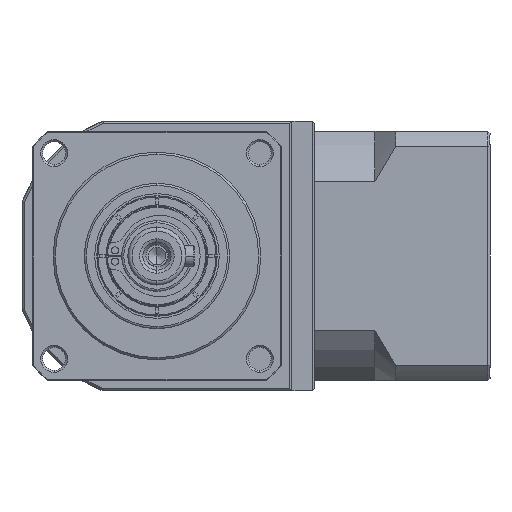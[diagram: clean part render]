
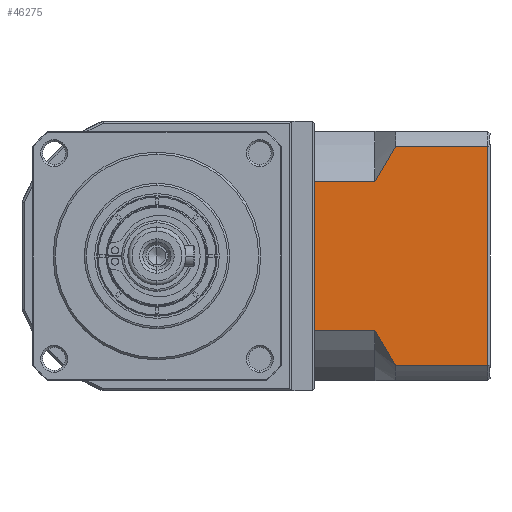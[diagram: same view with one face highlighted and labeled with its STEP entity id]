
A CAD part, left-side view. The second image highlights one B-rep face of the part: STEP entity #46275.
In plain terms, the highlighted planar face has unit normal (-1, 0, 0).
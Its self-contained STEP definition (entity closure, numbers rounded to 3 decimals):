
#3885 = FACE_OUTER_BOUND ( 'NONE', #103805, .T. ) ;
#3974 = ORIENTED_EDGE ( 'NONE', *, *, #6599, .F. ) ;
#4138 = VERTEX_POINT ( 'NONE', #25729 ) ;
#4949 = VECTOR ( 'NONE', #13155, 1000. ) ;
#5081 = CARTESIAN_POINT ( 'NONE',  ( -17.619, -78.863, -141.64 ) ) ;
#6599 = EDGE_CURVE ( 'NONE', #8780, #140287, #117535, .T. ) ;
#6863 = DIRECTION ( 'NONE',  ( 0., -1., 0. ) ) ;
#6998 = EDGE_CURVE ( 'NONE', #117397, #4138, #98257, .T. ) ;
#7428 = CARTESIAN_POINT ( 'NONE',  ( -17.619, -83.863, -150.07 ) ) ;
#8780 = VERTEX_POINT ( 'NONE', #155748 ) ;
#13155 = DIRECTION ( 'NONE',  ( 0., -1., 0. ) ) ;
#25729 = CARTESIAN_POINT ( 'NONE',  ( -17.619, -78.863, -105.585 ) ) ;
#26933 = CARTESIAN_POINT ( 'NONE',  ( -17.619, -80.415, -102.701 ) ) ;
#30752 = DIRECTION ( 'NONE',  ( 1., 0., 0. ) ) ;
#31042 = CARTESIAN_POINT ( 'NONE',  ( -17.619, -80.414, -144.522 ) ) ;
#31655 = LINE ( 'NONE', #77417, #124934 ) ;
#33186 = CARTESIAN_POINT ( 'NONE',  ( -17.619, -78.863, -141.64 ) ) ;
#36208 = ORIENTED_EDGE ( 'NONE', *, *, #130329, .T. ) ;
#39202 = CARTESIAN_POINT ( 'NONE',  ( -17.619, -78.863, -105.585 ) ) ;
#40058 = B_SPLINE_CURVE_WITH_KNOTS ( 'NONE', 3,
 ( #140158, #91732, #31042, #116157, #43365, #128404 ),
 .UNSPECIFIED., .F., .F.,
 ( 4, 2, 4 ),
 ( 0.1, 0.104, 0.109 ),
 .UNSPECIFIED. ) ;
#40998 = VECTOR ( 'NONE', #90304, 1000. ) ;
#42520 = PLANE ( 'NONE',  #138531 ) ;
#43078 = LINE ( 'NONE', #131860, #107694 ) ;
#43365 = CARTESIAN_POINT ( 'NONE',  ( -17.619, -82.962, -148.707 ) ) ;
#44852 = ORIENTED_EDGE ( 'NONE', *, *, #136343, .T. ) ;
#46275 = ADVANCED_FACE ( 'NONE', ( #3885 ), #42520, .F. ) ;
#48721 = CARTESIAN_POINT ( 'NONE',  ( -17.619, -64.363, -105.585 ) ) ;
#50441 = ORIENTED_EDGE ( 'NONE', *, *, #139347, .F. ) ;
#52823 = VECTOR ( 'NONE', #6863, 1000. ) ;
#58155 = VERTEX_POINT ( 'NONE', #60432 ) ;
#59054 = DIRECTION ( 'NONE',  ( 0., 0., 1. ) ) ;
#60432 = CARTESIAN_POINT ( 'NONE',  ( -17.619, -106.063, -150.07 ) ) ;
#63200 = CARTESIAN_POINT ( 'NONE',  ( -17.619, -83.863, -97.155 ) ) ;
#73999 = VECTOR ( 'NONE', #101208, 1000. ) ;
#77417 = CARTESIAN_POINT ( 'NONE',  ( -17.619, -64.363, -153.613 ) ) ;
#79620 = EDGE_CURVE ( 'NONE', #154261, #101894, #105716, .T. ) ;
#79985 = ORIENTED_EDGE ( 'NONE', *, *, #79620, .F. ) ;
#82489 = B_SPLINE_CURVE_WITH_KNOTS ( 'NONE', 3,
 ( #63200, #87639, #99788, #26933, #112051, #39202 ),
 .UNSPECIFIED., .F., .F.,
 ( 4, 2, 4 ),
 ( 0.052, 0.057, 0.062 ),
 .UNSPECIFIED. ) ;
#85536 = CARTESIAN_POINT ( 'NONE',  ( -17.619, -78.863, -105.585 ) ) ;
#86274 = EDGE_CURVE ( 'NONE', #58155, #140287, #43078, .T. ) ;
#87639 = CARTESIAN_POINT ( 'NONE',  ( -17.619, -82.964, -98.515 ) ) ;
#88129 = CARTESIAN_POINT ( 'NONE',  ( -17.619, -106.063, -97.155 ) ) ;
#88505 = CARTESIAN_POINT ( 'NONE',  ( -17.619, -78.863, -150.07 ) ) ;
#89666 = DIRECTION ( 'NONE',  ( 0., 0., -1. ) ) ;
#90304 = DIRECTION ( 'NONE',  ( 0., 1., 0. ) ) ;
#91128 = EDGE_CURVE ( 'NONE', #8780, #4138, #82489, .T. ) ;
#91732 = CARTESIAN_POINT ( 'NONE',  ( -17.619, -79.614, -143.097 ) ) ;
#94525 = ORIENTED_EDGE ( 'NONE', *, *, #91128, .T. ) ;
#98257 = LINE ( 'NONE', #85536, #4949 ) ;
#99788 = CARTESIAN_POINT ( 'NONE',  ( -17.619, -82.091, -99.894 ) ) ;
#101208 = DIRECTION ( 'NONE',  ( 0., 1., 0. ) ) ;
#101894 = VERTEX_POINT ( 'NONE', #118828 ) ;
#102389 = VERTEX_POINT ( 'NONE', #7428 ) ;
#103594 = CARTESIAN_POINT ( 'NONE',  ( -17.619, -106.563, -153.613 ) ) ;
#103805 = EDGE_LOOP ( 'NONE', ( #50441, #147490, #3974, #94525, #154435, #36208, #79985, #44852 ) ) ;
#105716 = LINE ( 'NONE', #5081, #40998 ) ;
#107694 = VECTOR ( 'NONE', #59054, 1000. ) ;
#112051 = CARTESIAN_POINT ( 'NONE',  ( -17.619, -79.611, -104.133 ) ) ;
#115857 = DIRECTION ( 'NONE',  ( 0., 1., 0. ) ) ;
#116157 = CARTESIAN_POINT ( 'NONE',  ( -17.619, -82.088, -147.327 ) ) ;
#117397 = VERTEX_POINT ( 'NONE', #48721 ) ;
#117535 = LINE ( 'NONE', #152784, #52823 ) ;
#118828 = CARTESIAN_POINT ( 'NONE',  ( -17.619, -64.363, -141.64 ) ) ;
#124934 = VECTOR ( 'NONE', #89666, 1000. ) ;
#128404 = CARTESIAN_POINT ( 'NONE',  ( -17.619, -83.863, -150.07 ) ) ;
#130329 = EDGE_CURVE ( 'NONE', #117397, #101894, #31655, .T. ) ;
#131860 = CARTESIAN_POINT ( 'NONE',  ( -17.619, -106.063, -153.613 ) ) ;
#136343 = EDGE_CURVE ( 'NONE', #154261, #102389, #40058, .T. ) ;
#138531 = AXIS2_PLACEMENT_3D ( 'NONE', #103594, #30752, #115857 ) ;
#138794 = LINE ( 'NONE', #88505, #73999 ) ;
#139347 = EDGE_CURVE ( 'NONE', #58155, #102389, #138794, .T. ) ;
#140158 = CARTESIAN_POINT ( 'NONE',  ( -17.619, -78.863, -141.64 ) ) ;
#140287 = VERTEX_POINT ( 'NONE', #88129 ) ;
#147490 = ORIENTED_EDGE ( 'NONE', *, *, #86274, .T. ) ;
#152784 = CARTESIAN_POINT ( 'NONE',  ( -17.619, -78.863, -97.155 ) ) ;
#154261 = VERTEX_POINT ( 'NONE', #33186 ) ;
#154435 = ORIENTED_EDGE ( 'NONE', *, *, #6998, .F. ) ;
#155748 = CARTESIAN_POINT ( 'NONE',  ( -17.619, -83.863, -97.155 ) ) ;
